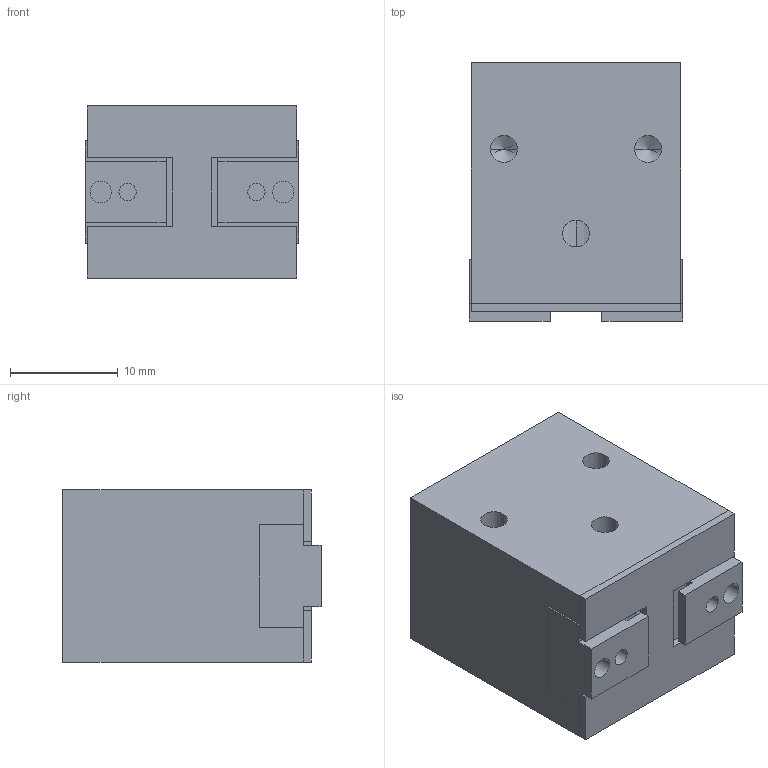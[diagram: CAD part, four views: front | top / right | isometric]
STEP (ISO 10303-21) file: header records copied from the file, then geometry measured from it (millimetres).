
FILE_DESCRIPTION (( 'STEP AP203' ), '1' );
FILE_NAME ('AGPM-1 OPEN in IN.STEP', '2014-10-31T16:06:01', ( 'setup' ), ( '' ), 'SwSTEP 2.0', 'SolidWorks 2013', '' );
FILE_SCHEMA (( 'CONFIG_CONTROL_DESIGN' ));
Length unit declared in the file: inch
Products named in the file (4): AGPM-1 OPEN in IN; AGPM-1 JAW; AGPM-1 CAP; AGPM-1 BODY
Assembly tree (4 placements, depth 2):
  AGPM-1 OPEN in IN
    AGPM-1 BODY
    AGPM-1 JAW  x2
    AGPM-1 CAP
Bounding box: 19.81 x 24 x 16 mm (x, y, z)
Volume: 6499.9 mm3; surface area: 4143.8 mm2
Topology: 4 solids, 4 shells, 112 faces, 281 edges, 174 vertices
Faces by surface type: plane 54, cylinder 38, cone 20
Entity records: 3259 total; most frequent: CARTESIAN_POINT 573, DIRECTION 477, ORIENTED_EDGE 446, EDGE_CURVE 223, AXIS2_PLACEMENT_3D 168, VERTEX_POINT 146, LINE 141, VECTOR 141
